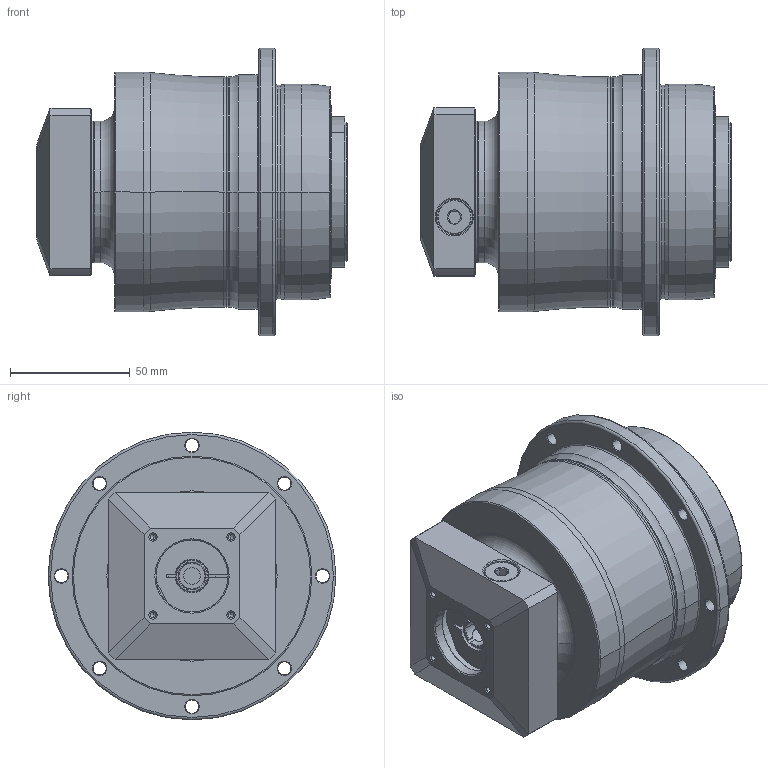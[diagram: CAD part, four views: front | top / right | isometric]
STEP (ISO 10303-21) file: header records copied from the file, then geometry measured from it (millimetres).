
FILE_DESCRIPTION((''),'2;1');
FILE_NAME('AH090_2ST_11-P0409200101_ASM','2016-08-03T',('d01943'),(''),'PRO/ENGINEER BY PARAMETRIC TECHNOLOGY CORPORATION, 2008410','PRO/ENGINEER BY PARAMETRIC TECHNOLOGY CORPORATION, 2008410','');
FILE_SCHEMA(('CONFIG_CONTROL_DESIGN'));
Length unit declared in the file: millimetre
Products named in the file (8): P0278300003; P0359300002; P1317300101; P0409200101; P0503200005; P0912201001; 21711410012; AH090_2ST_11-P0409200101_ASM
Assembly tree (7 placements, depth 2):
  AH090_2ST_11-P0409200101_ASM
    P0278300003
    P0359300002
    P1317300101
    P0409200101
    P0503200005
    P0912201001
    21711410012
Bounding box: 129.5 x 120 x 120 mm (x, y, z)
Volume: 745154.3 mm3; surface area: 122891.2 mm2
Topology: 8 solids, 8 shells, 516 faces, 1171 edges, 687 vertices
Faces by surface type: cylinder 196, cone 152, plane 94, torus 58, bspline 16
Entity records: 18729 total; most frequent: CARTESIAN_POINT 6960, DIRECTION 2643, ORIENTED_EDGE 2250, EDGE_CURVE 1125, AXIS2_PLACEMENT_3D 1112, VERTEX_POINT 687, EDGE_LOOP 608, CIRCLE 597
